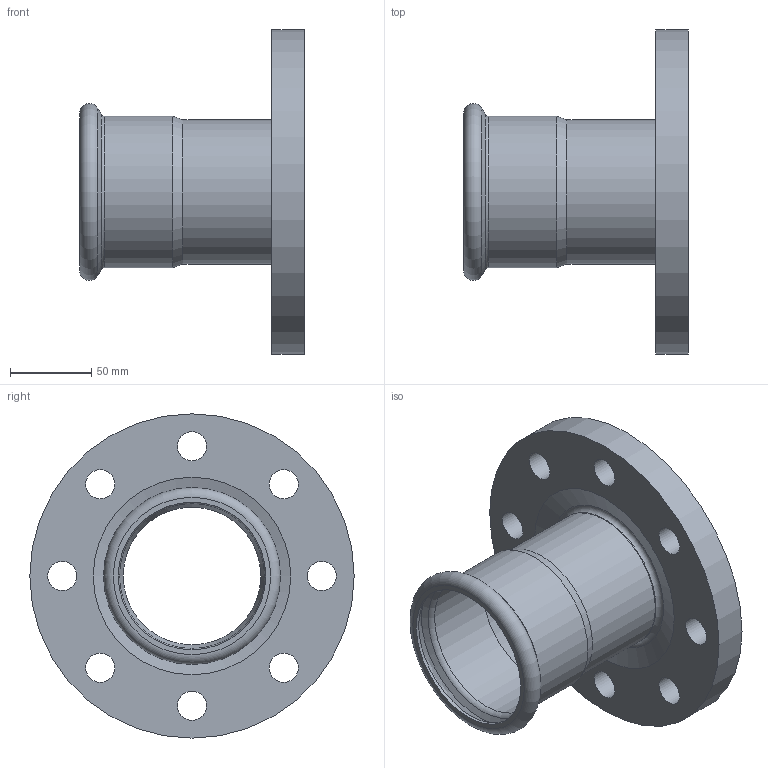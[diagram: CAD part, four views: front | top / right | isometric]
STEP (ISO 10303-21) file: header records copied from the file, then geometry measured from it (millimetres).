
FILE_DESCRIPTION((''),'2;1');
FILE_NAME('G:\Nirosan-Schmiedefeld\Technics\CAD\001 Serie 9.000\089\6VAPF89h(5).stp','2017-02-27T15:04:29',('herberg'),(''),'Autodesk Inventor 2009','Autodesk Inventor 2009','');
FILE_SCHEMA(('AUTOMOTIVE_DESIGN { 1 0 10303 214 1 1 1 1 }'));
Length unit declared in the file: millimetre
Products named in the file (3): 6VAPF89h(5); 69HMF89p(0); 69FL89160p(2)
Assembly tree (2 placements, depth 2):
  6VAPF89h(5)
    69HMF89p(0)
    69FL89160p(2)
Bounding box: 138.5 x 200 x 200 mm (x, y, z)
Volume: 535056.9 mm3; surface area: 148663.6 mm2
Topology: 2 solids, 2 shells, 33 faces, 68 edges, 41 vertices
Faces by surface type: cylinder 16, cone 6, plane 6, torus 3, bspline 2
Full cylindrical faces by diameter (mm): 18 x8, 84.9 x2, 88.9 x2, 89.5 x1, 91 x1, 93.5 x1, 200 x1
Entity records: 982 total; most frequent: CARTESIAN_POINT 244, DIRECTION 154, ORIENTED_EDGE 82, EDGE_LOOP 82, AXIS2_PLACEMENT_3D 77, FACE_BOUND 49, VERTEX_POINT 41, CIRCLE 41
